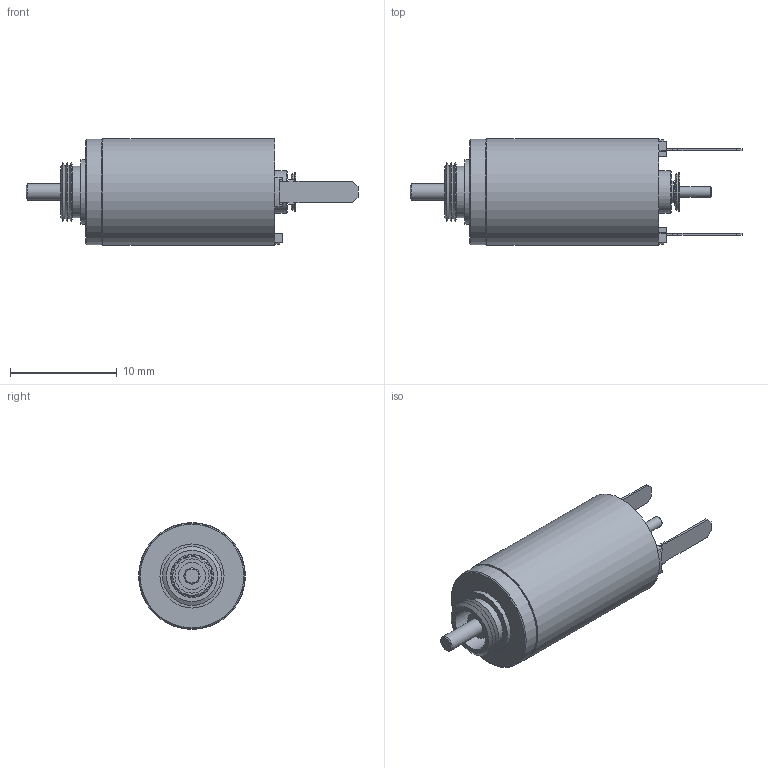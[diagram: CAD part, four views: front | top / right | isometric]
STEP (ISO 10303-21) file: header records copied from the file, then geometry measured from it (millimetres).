
FILE_DESCRIPTION(/* description */ (''),/* implementation_level */ '2;1');
FILE_NAME(/* name */ 'C:\Users\raffaele\Downloads\Projects\E&D\ipt-to-step-conversion\IPT to STP\10DC17N-PM.stp',/* time_stamp */ '2021-04-07T16:40:21+02:00',/* author */ ('AOM'),/* organization */ (''),/* preprocessor_version */ 'ST-DEVELOPER v18.1',/* originating_system */ 'Autodesk Inventor 2021',/* authorisation */ '');
FILE_SCHEMA (('AUTOMOTIVE_DESIGN { 1 0 10303 214 3 1 1 }'));
Length unit declared in the file: millimetre
Products named in the file (1): DCX 10 S - 10DC17N-PM
Bounding box: 31.1 x 10 x 10 mm (x, y, z)
Volume: 690.1 mm3; surface area: 1899 mm2
Topology: 9 solids, 11 shells, 561 faces, 1419 edges, 903 vertices
Faces by surface type: plane 250, cylinder 234, cone 52, bspline 18, torus 6, sphere 1
Full cylindrical faces by diameter (mm): 0.2 x1, 0.9 x2, 1 x4, 1.1 x4, 1.16 x1, 1.5 x3, 2 x1, 2.55 x1, 3.2 x1, 3.24 x1, 3.4 x1, 3.7 x1, 4 x3, 4.8 x1, 5 x1, 6 x1, 9.2 x2, 9.35 x1, 9.9 x1, 10 x1
Entity records: 18934 total; most frequent: CARTESIAN_POINT 4813, ORIENTED_EDGE 2838, DIRECTION 2763, EDGE_CURVE 1419, AXIS2_PLACEMENT_3D 999, VERTEX_POINT 903, LINE 765, VECTOR 765
